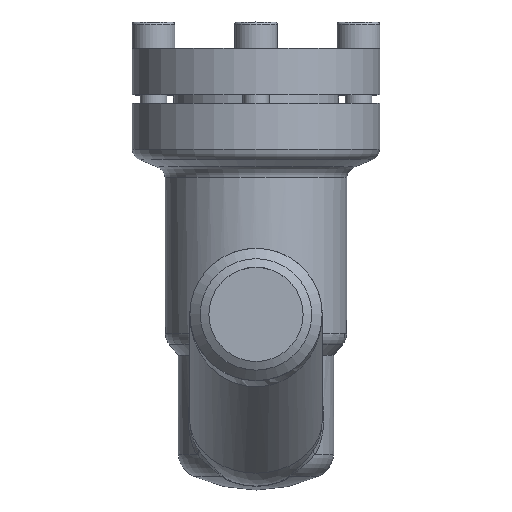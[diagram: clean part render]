
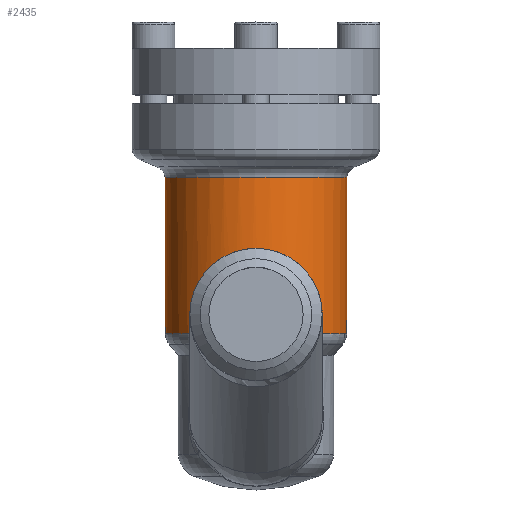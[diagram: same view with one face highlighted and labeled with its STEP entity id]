
A CAD part, top view. The second image highlights one B-rep face of the part: STEP entity #2435.
In plain terms, the highlighted cylindrical face has radius 27.5 mm (diameter 55 mm), a partial arc.
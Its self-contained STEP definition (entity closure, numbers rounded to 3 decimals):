
#1814=CARTESIAN_POINT('',(14.746,-12.391,-23.212));
#1815=VERTEX_POINT('',#1814);
#1816=CARTESIAN_POINT('',(-14.746,-12.391,-23.212));
#1817=VERTEX_POINT('',#1816);
#1851=CARTESIAN_POINT('',(20.819,-37.861,-17.967));
#1852=VERTEX_POINT('',#1851);
#1853=CARTESIAN_POINT('',(14.746,-12.391,-23.212));
#1854=CARTESIAN_POINT('',(15.791,-13.097,-22.548));
#1855=CARTESIAN_POINT('',(18.112,-15.081,-20.837));
#1856=CARTESIAN_POINT('',(20.591,-19.238,-18.301));
#1857=CARTESIAN_POINT('',(21.711,-25.101,-16.878));
#1858=CARTESIAN_POINT('',(21.729,-30.689,-16.857));
#1859=CARTESIAN_POINT('',(21.293,-34.925,-17.41));
#1860=CARTESIAN_POINT('',(20.921,-37.274,-17.849));
#1861=CARTESIAN_POINT('',(20.82,-37.861,-17.966));
#1862=B_SPLINE_CURVE_WITH_KNOTS('',3,(#1853,#1854,#1855,#1856,#1857,#1858,#1859,#1860,#1861),.UNSPECIFIED.,.F.,.U.,(4,1,1,1,1,1,4),(6.571,7.093,7.827,8.378,8.928,9.479,9.664),.UNSPECIFIED.);
#1863=EDGE_CURVE('',#1815,#1852,#1862,.T.);
#1865=CARTESIAN_POINT('',(12.735,-59.68,-24.373));
#1866=VERTEX_POINT('',#1865);
#1867=CARTESIAN_POINT('',(20.819,-37.861,-17.967));
#1868=CARTESIAN_POINT('',(20.62,-39.016,-18.197));
#1869=CARTESIAN_POINT('',(20.393,-40.158,-18.453));
#1870=CARTESIAN_POINT('',(20.14,-41.285,-18.725));
#1871=CARTESIAN_POINT('',(19.41,-44.545,-19.51));
#1872=CARTESIAN_POINT('',(18.47,-47.687,-20.426));
#1873=CARTESIAN_POINT('',(17.327,-50.649,-21.355));
#1874=CARTESIAN_POINT('',(17.278,-50.777,-21.395));
#1875=CARTESIAN_POINT('',(17.228,-50.905,-21.435));
#1876=CARTESIAN_POINT('',(17.178,-51.032,-21.475));
#1877=CARTESIAN_POINT('',(15.965,-54.11,-22.447));
#1878=CARTESIAN_POINT('',(14.503,-57.056,-23.45));
#1879=CARTESIAN_POINT('',(12.735,-59.68,-24.373));
#1880=B_SPLINE_CURVE_WITH_KNOTS('',3,(#1867,#1868,#1869,#1870,#1871,#1872,#1873,#1874,#1875,#1876,#1877,#1878,#1879),.UNSPECIFIED.,.F.,.U.,(4,3,3,3,4),(-9.665,-9.3,-8.244,-8.198,-7.097),.UNSPECIFIED.);
#1881=EDGE_CURVE('',#1852,#1866,#1880,.T.);
#1892=CARTESIAN_POINT('',(-12.735,-59.68,-24.373));
#1893=VERTEX_POINT('',#1892);
#1901=CARTESIAN_POINT('',(-12.735,-59.68,-24.373));
#1902=CARTESIAN_POINT('',(-14.507,-57.05,-23.448));
#1903=CARTESIAN_POINT('',(-17.416,-51.188,-21.451));
#1904=CARTESIAN_POINT('',(-20.048,-42.469,-18.895));
#1905=CARTESIAN_POINT('',(-21.462,-34.356,-17.209));
#1906=CARTESIAN_POINT('',(-21.829,-28.197,-16.725));
#1907=CARTESIAN_POINT('',(-21.405,-23.335,-17.271));
#1908=CARTESIAN_POINT('',(-20.341,-18.836,-18.556));
#1909=CARTESIAN_POINT('',(-18.121,-15.085,-20.832));
#1910=CARTESIAN_POINT('',(-15.794,-13.096,-22.545));
#1911=CARTESIAN_POINT('',(-14.746,-12.389,-23.21));
#1912=B_SPLINE_CURVE_WITH_KNOTS('',3,(#1901,#1902,#1903,#1904,#1905,#1906,#1907,#1908,#1909,#1910,#1911),.UNSPECIFIED.,.F.,.U.,(4,1,1,1,1,1,1,1,4),(-3.187,-2.086,-0.985,-0.25,0.484,0.851,1.218,1.953,2.475),.UNSPECIFIED.);
#1913=EDGE_CURVE('',#1893,#1817,#1912,.T.);
#2014=CARTESIAN_POINT('',(0.,-12.391,0.0));
#2015=DIRECTION('',(0.0,1.0,0.0));
#2016=DIRECTION('',(-1.0,0.0,0.0));
#2017=AXIS2_PLACEMENT_3D('',#2014,#2015,#2016);
#2018=CIRCLE('',#2017,27.5);
#2019=EDGE_CURVE('',#1817,#1815,#2018,.T.);
#2148=CARTESIAN_POINT('',(-17.445,-59.68,21.259));
#2149=VERTEX_POINT('',#2148);
#2158=CARTESIAN_POINT('',(17.445,-59.68,21.259));
#2159=VERTEX_POINT('',#2158);
#2167=CARTESIAN_POINT('',(17.445,-59.68,21.259));
#2168=CARTESIAN_POINT('',(16.765,-57.754,21.816));
#2169=CARTESIAN_POINT('',(15.738,-55.253,22.587));
#2170=CARTESIAN_POINT('',(13.33,-50.554,24.109));
#2171=CARTESIAN_POINT('',(10.992,-47.054,25.309));
#2172=CARTESIAN_POINT('',(7.33,-43.492,26.565));
#2173=CARTESIAN_POINT('',(4.444,-41.672,27.22));
#2174=CARTESIAN_POINT('',(1.437,-40.924,27.491));
#2175=CARTESIAN_POINT('',(-1.026,-40.847,27.519));
#2176=CARTESIAN_POINT('',(-3.857,-41.467,27.294));
#2177=CARTESIAN_POINT('',(-6.983,-43.221,26.662));
#2178=CARTESIAN_POINT('',(-10.061,-46.055,25.658));
#2179=CARTESIAN_POINT('',(-12.4,-49.166,24.585));
#2180=CARTESIAN_POINT('',(-15.097,-53.743,23.061));
#2181=CARTESIAN_POINT('',(-16.541,-57.118,22.001));
#2182=CARTESIAN_POINT('',(-17.445,-59.68,21.259));
#2183=B_SPLINE_CURVE_WITH_KNOTS('',3,(#2167,#2168,#2169,#2170,#2171,#2172,#2173,#2174,#2175,#2176,#2177,#2178,#2179,#2180,#2181,#2182),.UNSPECIFIED.,.F.,.U.,(4,1,1,1,1,1,1,1,1,1,1,1,1,4),(12.885,13.536,13.753,14.621,14.911,15.489,15.779,15.996,16.358,16.792,17.226,17.768,18.094,18.962),.UNSPECIFIED.);
#2184=EDGE_CURVE('',#2159,#2149,#2183,.T.);
#2409=CARTESIAN_POINT('',(0.,-29.695,0.0));
#2410=DIRECTION('',(0.,1.0,0.0));
#2411=DIRECTION('',(-1.0,0.0,0.0));
#2412=AXIS2_PLACEMENT_3D('',#2409,#2410,#2411);
#2413=CYLINDRICAL_SURFACE('',#2412,27.5);
#2414=ORIENTED_EDGE('',*,*,#1863,.F.);
#2415=ORIENTED_EDGE('',*,*,#2019,.F.);
#2416=ORIENTED_EDGE('',*,*,#1913,.F.);
#2417=CARTESIAN_POINT('',(0.,-59.68,0.0));
#2418=DIRECTION('',(0.0,-1.0,0.0));
#2419=DIRECTION('',(0.0,0.0,-1.0));
#2420=AXIS2_PLACEMENT_3D('',#2417,#2418,#2419);
#2421=CIRCLE('',#2420,27.5);
#2422=EDGE_CURVE('',#2149,#1893,#2421,.T.);
#2423=ORIENTED_EDGE('',*,*,#2422,.F.);
#2424=ORIENTED_EDGE('',*,*,#2184,.F.);
#2425=CARTESIAN_POINT('',(0.,-59.68,0.0));
#2426=DIRECTION('',(0.0,-1.0,0.0));
#2427=DIRECTION('',(0.0,0.0,-1.0));
#2428=AXIS2_PLACEMENT_3D('',#2425,#2426,#2427);
#2429=CIRCLE('',#2428,27.5);
#2430=EDGE_CURVE('',#1866,#2159,#2429,.T.);
#2431=ORIENTED_EDGE('',*,*,#2430,.F.);
#2432=ORIENTED_EDGE('',*,*,#1881,.F.);
#2433=EDGE_LOOP('',(#2414,#2415,#2416,#2423,#2424,#2431,#2432));
#2434=FACE_OUTER_BOUND('',#2433,.T.);
#2435=ADVANCED_FACE('',(#2434),#2413,.T.);
